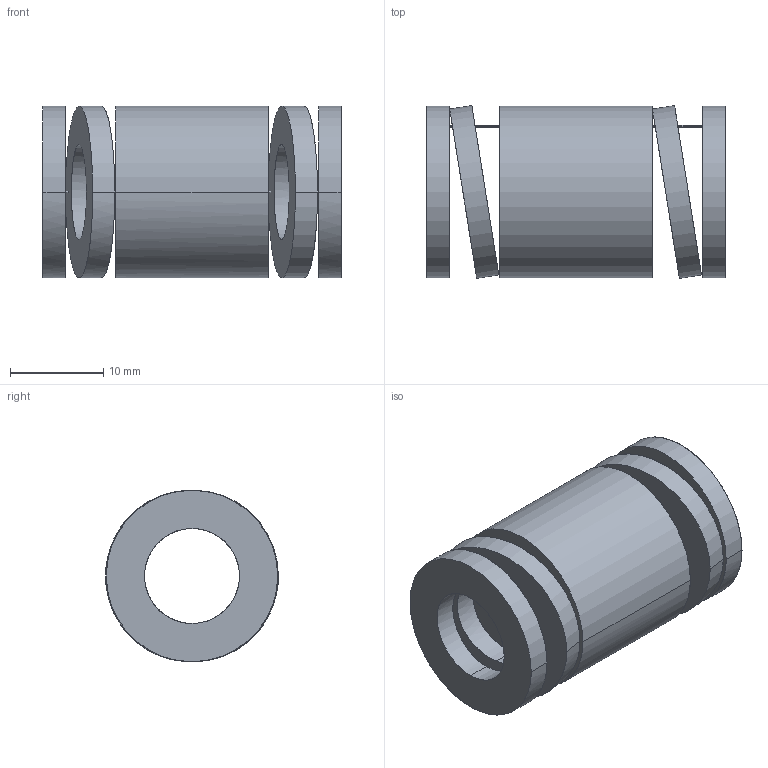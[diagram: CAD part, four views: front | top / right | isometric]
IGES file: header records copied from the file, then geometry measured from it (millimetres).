
Start section: START RECORD GO HERE.
Global section: file name: 392-B20-032.igs; native system: DASSAULT SYSTEMES CATIA V5 R20 - www.3ds.com; preprocessor: CATIA Version 5 Release 20 ; author: Utente; organization: NB04-ASUS; date: 20210812.155924; units: millimetre
Bounding box: 32 x 18.55 x 18.4 mm (x, y, z)
Surface area: 4172.2 mm2 (no closed solid volume)
Topology: 0 solids, 0 shells, 38 faces, 184 edges, 184 vertices
Faces by surface type: revolution 28, plane 10
